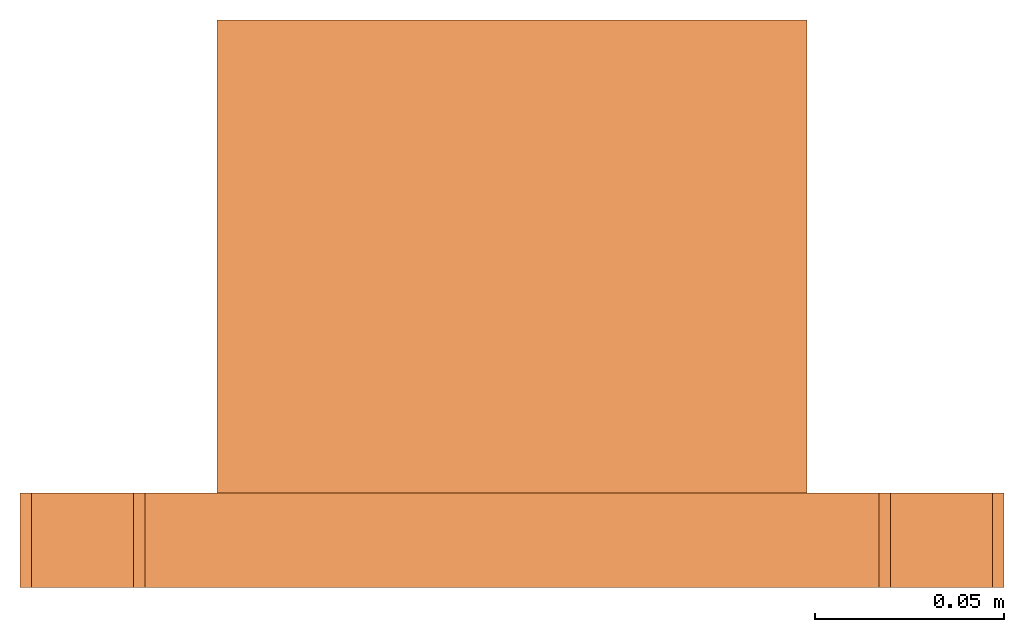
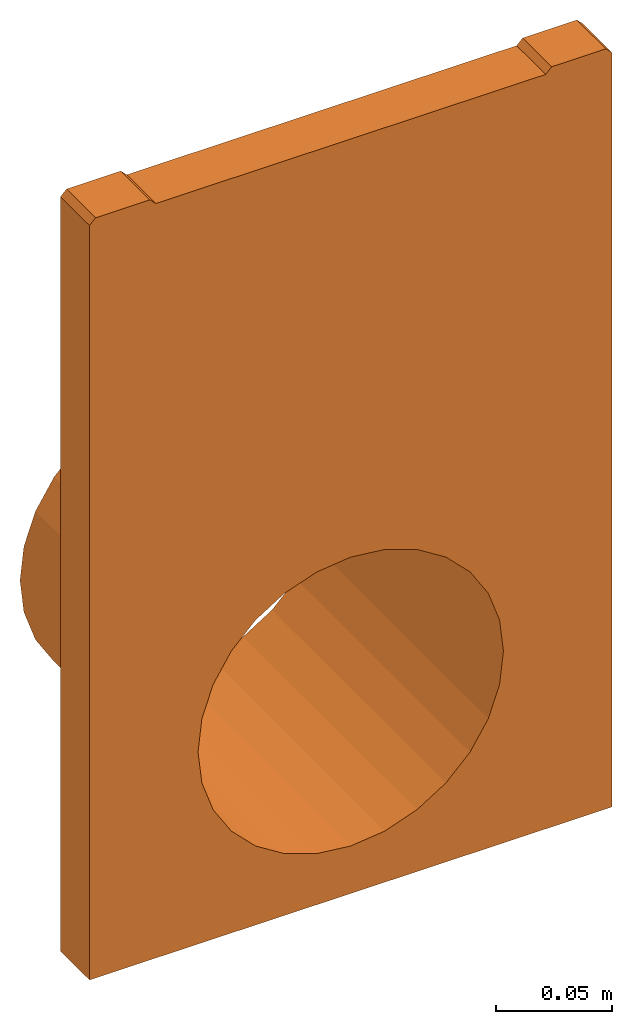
# One storey: 1 proxy.
"""IFC2X3 building model written with IfcOpenShell, lengths in millimetres."""

from ifc_helpers import new_model, entity, si_unit, converted_unit, direction, frame, frame_2d, origin, origin_2d_with_axis, place, context, subcontext, project, spatial, polyline, circle_curve, parameter, trimmed, segment, composite_curve, outline, extrude, source, transform, mapped, material, material_list, element, save


model = new_model("IFC2X3")

# Units and contexts
model_context = context("Model", 3, precision=1e-06, world=origin(), true_north=direction((2.0, 6.12303176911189e-17, 1.0)))
context_of_model = context(None, 3, precision=1e-06, world=origin(), true_north=direction((2.0, 6.12303176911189e-17, 1.0)))
body_context = subcontext(model_context, "Body", "Model", "MODEL_VIEW")
ifc_project = project(units=[si_unit("LENGTHUNIT", "METRE", prefix="MILLI"), si_unit("AREAUNIT", "SQUARE_METRE", prefix="MILLI"), si_unit("VOLUMEUNIT", "CUBIC_METRE", prefix="MILLI"), converted_unit("PLANEANGLEUNIT", "DEGREE", entity("IfcRatioMeasure", 0.0174532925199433), si_unit("PLANEANGLEUNIT", "RADIAN"), dimensions=[0, 0, 0, 0, 0, 0, 0]), si_unit("TIMEUNIT", "SECOND")], contexts=[model_context, context_of_model])

# Site, building, storey
site_placement = place(None, origin())
site = spatial("IfcSite", under=ifc_project, at=site_placement, Name="Default", CompositionType="ELEMENT")
building_placement = place(site_placement, origin())
building = spatial("IfcBuilding", under=site, at=building_placement, CompositionType="ELEMENT")
storey_placement = place(building_placement, frame((0.0, 0.0, -4600.0)))
storey = spatial("IfcBuildingStorey", under=building, at=storey_placement, Name="B.O. Footing", CompositionType="ELEMENT", Elevation=-4600.0)

# Proxy
ifc_material_1 = material(Name="Phenolic Resin")
ifc_material_2 = material(Name="Acetal Resin, Black")
ifc_material_list = material_list([ifc_material_1, ifc_material_2])
shared_shape = source(origin(), body_context, "Body", "SweptSolid", [
    extrude(outline(composite_curve([segment(trimmed(circle_curve(origin_2d_with_axis(), 77.9999330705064), [parameter(180.0)], [parameter(0.0)], True, "PARAMETER"), True, "CONTINUOUS"), segment(trimmed(circle_curve(origin_2d_with_axis(), 77.9999330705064), [parameter(0.0)], [parameter(180.0)], True, "PARAMETER"), True, "CONTINUOUS")], self_intersect=False), holes=[composite_curve([segment(trimmed(circle_curve(origin_2d_with_axis(), 75.9999330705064), [parameter(2.03555499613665e-13)], [parameter(180.0)], True, "PARAMETER"), False, "CONTINUOUS"), segment(trimmed(circle_curve(origin_2d_with_axis(), 75.9999330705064), [parameter(180.0)], [parameter(0.0)], True, "PARAMETER"), False, "CONTINUOUS")], self_intersect=False)]), frame((-1.53283226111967e-09, 25.0, -299.000066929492), z_axis=(0.0, 1.0, 0.0), x_axis=(1.0, 0.0, 0.0)), (0.0, 0.0, 1.0), 125.0),
    extrude(outline(polyline([(-130.0, -318.799999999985), (130.0, -318.799999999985), (130.0, 78.1999999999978), (127.0, 81.1999999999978), (100.0, 81.1999999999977), (97.0, 78.1999999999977), (-97.0, 78.1999999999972), (-100.0, 81.1999999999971), (-127.0, 81.199999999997), (-130.0, 78.1999999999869), (-130.0, -318.799999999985)]), holes=[composite_curve([segment(trimmed(circle_curve(frame_2d((0.0, -217.800066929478), x_axis=(1.0, 0.0)), 75.9999330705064), [parameter(180.0)], [parameter(360.0)], True, "PARAMETER"), False, "CONTINUOUS"), segment(trimmed(circle_curve(frame_2d((0.0, -217.800066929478), x_axis=(1.0, 0.0)), 75.9999330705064), [parameter(0.0)], [parameter(180.0)], True, "PARAMETER"), False, "CONTINUOUS")], self_intersect=False)]), frame((0.0, 0.0, -81.2000000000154), z_axis=(0.0, 1.0, 0.0), x_axis=(-1.0, 0.0, 0.0)), (0.0, 0.0, 1.0), 25.0),
])
proxy_placement = place(storey_placement, frame((-71694.9775722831, 28686.5082893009, 300.0)))
element("IfcBuildingElementProxy", 1, at=proxy_placement, inside=storey, material=ifc_material_list, Name="Civil-Drainage-Channel-ACO-RoadDrain 200:33108 - PD200 F 108 Inlet/outlet endcap:33108 - PD200 F 108 Inlet/outlet endcap", ObjectType="33108 - PD200 F 108 Inlet/outlet endcap", CompositionType="ELEMENT", context=body_context, shape_type="MappedRepresentation", body=[
    mapped(shared_shape, transform((0.0, 0.0, 0.0), scale=1.0)),
])

save(model, "model.ifc")
